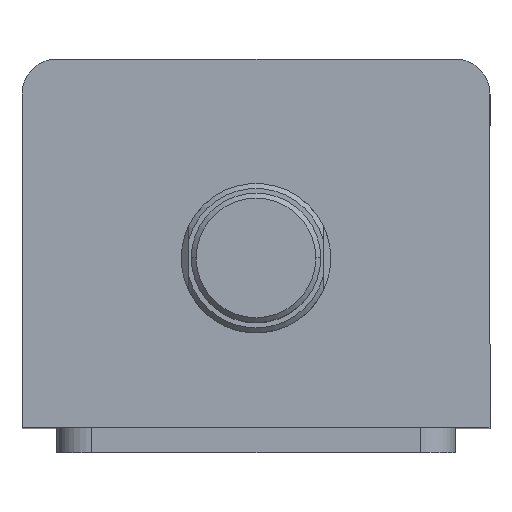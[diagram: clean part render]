
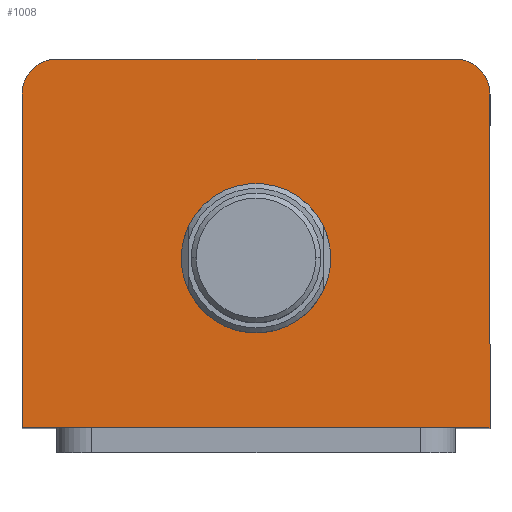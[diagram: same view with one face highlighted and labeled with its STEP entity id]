
A CAD part, top view. The second image highlights one B-rep face of the part: STEP entity #1008.
In plain terms, the highlighted planar face has unit normal (0, 0, 1).
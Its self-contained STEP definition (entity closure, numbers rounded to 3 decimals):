
#231 = EDGE_LOOP ( 'NONE', ( #2947, #2946 ) ) ;
#274 = EDGE_LOOP ( 'NONE', ( #2945, #2937, #2944, #2943, #2942, #2940 ) ) ;
#349 = VERTEX_POINT ( 'NONE', #2088 ) ;
#364 = VERTEX_POINT ( 'NONE', #2071 ) ;
#389 = VERTEX_POINT ( 'NONE', #2044 ) ;
#395 = VERTEX_POINT ( 'NONE', #2038 ) ;
#397 = VERTEX_POINT ( 'NONE', #2036 ) ;
#443 = VERTEX_POINT ( 'NONE', #1990 ) ;
#444 = VERTEX_POINT ( 'NONE', #1989 ) ;
#449 = VERTEX_POINT ( 'NONE', #1984 ) ;
#646 = DIRECTION ( 'NONE',  ( 1., 0., 0. ) ) ;
#647 = DIRECTION ( 'NONE',  ( 0., 0., 1. ) ) ;
#648 = CARTESIAN_POINT ( 'NONE',  ( 0., -3., 135. ) ) ;
#703 = CARTESIAN_POINT ( 'NONE',  ( -47., -37., 135. ) ) ;
#721 = DIRECTION ( 'NONE',  ( 1., 0., 0. ) ) ;
#775 = DIRECTION ( 'NONE',  ( 0., -1., 0. ) ) ;
#776 = CARTESIAN_POINT ( 'NONE',  ( -47., 37., 135. ) ) ;
#814 = DIRECTION ( 'NONE',  ( 1., 0., 0. ) ) ;
#816 = DIRECTION ( 'NONE',  ( 0., 0., 1. ) ) ;
#817 = CARTESIAN_POINT ( 'NONE',  ( -40., 30., 135. ) ) ;
#838 = DIRECTION ( 'NONE',  ( 1., 0., 0. ) ) ;
#840 = DIRECTION ( 'NONE',  ( 0., 0., 1. ) ) ;
#841 = CARTESIAN_POINT ( 'NONE',  ( 0., -3., 135. ) ) ;
#849 = DIRECTION ( 'NONE',  ( 1., 0., 0. ) ) ;
#850 = DIRECTION ( 'NONE',  ( 0., 0., 1. ) ) ;
#851 = CARTESIAN_POINT ( 'NONE',  ( 40., 30., 135. ) ) ;
#868 = DIRECTION ( 'NONE',  ( 0., 1., 0. ) ) ;
#869 = CARTESIAN_POINT ( 'NONE',  ( 47., 37., 135. ) ) ;
#923 = DIRECTION ( 'NONE',  ( -1., 0., 0. ) ) ;
#924 = CARTESIAN_POINT ( 'NONE',  ( -47., 37., 135. ) ) ;
#1008 = ADVANCED_FACE ( 'NONE', ( #2686, #2695 ), #1867, .T. ) ;
#1069 = AXIS2_PLACEMENT_3D ( 'NONE', #648, #647, #646 ) ;
#1099 = AXIS2_PLACEMENT_3D ( 'NONE', #841, #840, #838 ) ;
#1198 = AXIS2_PLACEMENT_3D ( 'NONE', #817, #816, #814 ) ;
#1208 = AXIS2_PLACEMENT_3D ( 'NONE', #851, #850, #849 ) ;
#1215 = AXIS2_PLACEMENT_3D ( 'NONE', #1864, #1860, #1859 ) ;
#1347 = EDGE_CURVE ( 'NONE', #389, #443, #1470, .T. ) ;
#1369 = EDGE_CURVE ( 'NONE', #349, #449, #1507, .T. ) ;
#1388 = EDGE_CURVE ( 'NONE', #395, #444, #1539, .T. ) ;
#1406 = EDGE_CURVE ( 'NONE', #449, #364, #1574, .T. ) ;
#1410 = EDGE_CURVE ( 'NONE', #364, #395, #1578, .T. ) ;
#1470 = CIRCLE ( 'NONE', #1099, 15. ) ;
#1507 = LINE ( 'NONE', #703, #1509 ) ;
#1509 = VECTOR ( 'NONE', #721, 1000. ) ;
#1539 = LINE ( 'NONE', #924, #1542 ) ;
#1542 = VECTOR ( 'NONE', #923, 1000. ) ;
#1574 = LINE ( 'NONE', #869, #1577 ) ;
#1577 = VECTOR ( 'NONE', #868, 1000. ) ;
#1578 = CIRCLE ( 'NONE', #1208, 7. ) ;
#1586 = CIRCLE ( 'NONE', #1198, 7. ) ;
#1600 = LINE ( 'NONE', #776, #1603 ) ;
#1603 = VECTOR ( 'NONE', #775, 1000. ) ;
#1654 = CIRCLE ( 'NONE', #1069, 15. ) ;
#1859 = DIRECTION ( 'NONE',  ( 1., 0., 0. ) ) ;
#1860 = DIRECTION ( 'NONE',  ( 0., 0., 1. ) ) ;
#1864 = CARTESIAN_POINT ( 'NONE',  ( 0., 0., 135. ) ) ;
#1867 = PLANE ( 'NONE',  #1215 ) ;
#1984 = CARTESIAN_POINT ( 'NONE',  ( 47., -37., 135. ) ) ;
#1989 = CARTESIAN_POINT ( 'NONE',  ( -40., 37., 135. ) ) ;
#1990 = CARTESIAN_POINT ( 'NONE',  ( 15., -3., 135. ) ) ;
#2036 = CARTESIAN_POINT ( 'NONE',  ( -47., 30., 135. ) ) ;
#2038 = CARTESIAN_POINT ( 'NONE',  ( 40., 37., 135. ) ) ;
#2044 = CARTESIAN_POINT ( 'NONE',  ( -15., -3., 135. ) ) ;
#2071 = CARTESIAN_POINT ( 'NONE',  ( 47., 30., 135. ) ) ;
#2088 = CARTESIAN_POINT ( 'NONE',  ( -47., -37., 135. ) ) ;
#2493 = EDGE_CURVE ( 'NONE', #444, #397, #1586, .T. ) ;
#2502 = EDGE_CURVE ( 'NONE', #397, #349, #1600, .T. ) ;
#2536 = EDGE_CURVE ( 'NONE', #443, #389, #1654, .T. ) ;
#2686 = FACE_BOUND ( 'NONE', #231, .T. ) ;
#2695 = FACE_OUTER_BOUND ( 'NONE', #274, .T. ) ;
#2937 = ORIENTED_EDGE ( 'NONE', *, *, #2493, .T. ) ;
#2940 = ORIENTED_EDGE ( 'NONE', *, *, #1410, .T. ) ;
#2942 = ORIENTED_EDGE ( 'NONE', *, *, #1406, .T. ) ;
#2943 = ORIENTED_EDGE ( 'NONE', *, *, #1369, .T. ) ;
#2944 = ORIENTED_EDGE ( 'NONE', *, *, #2502, .T. ) ;
#2945 = ORIENTED_EDGE ( 'NONE', *, *, #1388, .T. ) ;
#2946 = ORIENTED_EDGE ( 'NONE', *, *, #1347, .F. ) ;
#2947 = ORIENTED_EDGE ( 'NONE', *, *, #2536, .F. ) ;
